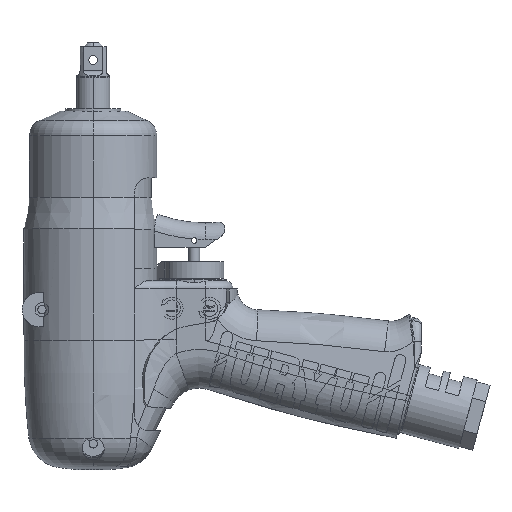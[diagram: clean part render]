
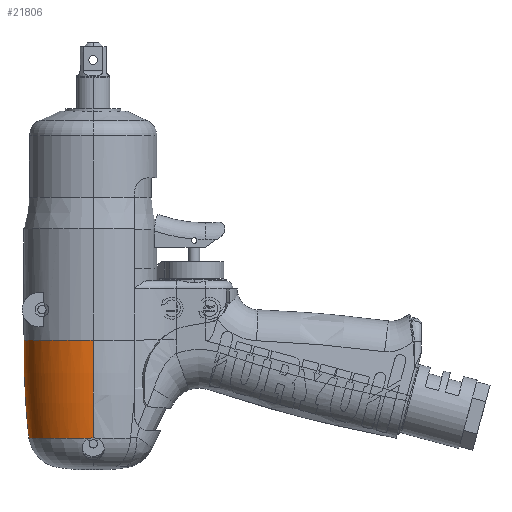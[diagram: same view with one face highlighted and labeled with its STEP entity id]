
A CAD part, left-side view. The second image highlights one B-rep face of the part: STEP entity #21806.
In plain terms, the highlighted toroidal (fillet/blend) face has major radius 276.989 mm and minor radius 302 mm.
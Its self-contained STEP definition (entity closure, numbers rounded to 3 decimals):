
#6689 = DIRECTION ( 'NONE',  ( -1., 0., 0. ) ) ;
#6690 = DIRECTION ( 'NONE',  ( 0., 1., 0. ) ) ;
#6701 = CARTESIAN_POINT ( 'NONE',  ( 276.989, 0., -103.801 ) ) ;
#6702 = AXIS2_PLACEMENT_3D ( 'NONE', #6701, #6690, #6689 ) ;
#6704 = CIRCLE ( 'NONE', #6702, 302. ) ;
#6742 = CARTESIAN_POINT ( 'NONE',  ( -23.24, 0., -136.466 ) ) ;
#6906 = CARTESIAN_POINT ( 'NONE',  ( -23.206, 0.975, -136.587 ) ) ;
#6907 = CARTESIAN_POINT ( 'NONE',  ( -23.217, 0.816, -136.547 ) ) ;
#6908 = CARTESIAN_POINT ( 'NONE',  ( -23.225, 0.655, -136.516 ) ) ;
#6909 = CARTESIAN_POINT ( 'NONE',  ( -23.237, 0.33, -136.476 ) ) ;
#6910 = CARTESIAN_POINT ( 'NONE',  ( -23.24, 0.164, -136.466 ) ) ;
#6911 = CARTESIAN_POINT ( 'NONE',  ( -23.24, 0., -136.466 ) ) ;
#6914 = B_SPLINE_CURVE_WITH_KNOTS ( 'NONE', 3,
 ( #6911, #6910, #6909, #6908, #6907, #6906 ),
 .UNSPECIFIED., .F., .F.,
 ( 4, 2, 4 ),
 ( 0.001, 0.002, 0.002 ),
 .UNSPECIFIED. ) ;
#7064 = DIRECTION ( 'NONE',  ( 1., 0., 0. ) ) ;
#7065 = DIRECTION ( 'NONE',  ( 0., 0., 1. ) ) ;
#7066 = CARTESIAN_POINT ( 'NONE',  ( 0., 0., -103.801 ) ) ;
#7067 = AXIS2_PLACEMENT_3D ( 'NONE', #7066, #7065, #7064 ) ;
#7073 = TOROIDAL_SURFACE ( 'NONE', #7067, -276.989, 302. ) ;
#7076 = FACE_OUTER_BOUND ( 'NONE', #20860, .T. ) ;
#7166 = CARTESIAN_POINT ( 'NONE',  ( 24.691, 0., -117.7 ) ) ;
#7211 = CARTESIAN_POINT ( 'NONE',  ( 24.071, 5.5, -117.7 ) ) ;
#7212 = B_SPLINE_CURVE_WITH_KNOTS ( 'NONE', 3,
 ( #7211, #7266, #7265, #7264, #7263, #7262, #7261, #7260, #7259, #7258 ),
 .UNSPECIFIED., .F., .F.,
 ( 4, 2, 2, 2, 4 ),
 ( 0., 0., 0.001, 0.001, 0.002 ),
 .UNSPECIFIED. ) ;
#7221 = CARTESIAN_POINT ( 'NONE',  ( 24.071, 5.5, -117.7 ) ) ;
#7222 = DIRECTION ( 'NONE',  ( 1., 0., 0. ) ) ;
#7223 = DIRECTION ( 'NONE',  ( 0., 0., 1. ) ) ;
#7224 = CARTESIAN_POINT ( 'NONE',  ( 0., 0., -117.7 ) ) ;
#7225 = AXIS2_PLACEMENT_3D ( 'NONE', #7224, #7223, #7222 ) ;
#7226 = CIRCLE ( 'NONE', #7225, 24.691 ) ;
#7231 = DIRECTION ( 'NONE',  ( 0., 0., -1. ) ) ;
#7232 = DIRECTION ( 'NONE',  ( 0., -1., 0. ) ) ;
#7233 = CARTESIAN_POINT ( 'NONE',  ( -276.989, 0., -103.801 ) ) ;
#7234 = AXIS2_PLACEMENT_3D ( 'NONE', #7233, #7232, #7231 ) ;
#7235 = CIRCLE ( 'NONE', #7234, 302. ) ;
#7236 = CARTESIAN_POINT ( 'NONE',  ( 23.24, 0., -136.466 ) ) ;
#7258 = CARTESIAN_POINT ( 'NONE',  ( 23.866, 6.5, -116.7 ) ) ;
#7259 = CARTESIAN_POINT ( 'NONE',  ( 23.86, 6.5, -116.834 ) ) ;
#7260 = CARTESIAN_POINT ( 'NONE',  ( 23.862, 6.473, -116.966 ) ) ;
#7261 = CARTESIAN_POINT ( 'NONE',  ( 23.878, 6.371, -117.209 ) ) ;
#7262 = CARTESIAN_POINT ( 'NONE',  ( 23.893, 6.295, -117.32 ) ) ;
#7263 = CARTESIAN_POINT ( 'NONE',  ( 23.933, 6.109, -117.504 ) ) ;
#7264 = CARTESIAN_POINT ( 'NONE',  ( 23.958, 5.999, -117.577 ) ) ;
#7265 = CARTESIAN_POINT ( 'NONE',  ( 24.012, 5.758, -117.675 ) ) ;
#7266 = CARTESIAN_POINT ( 'NONE',  ( 24.041, 5.63, -117.7 ) ) ;
#7311 = CARTESIAN_POINT ( 'NONE',  ( 23.866, 6.5, -116.7 ) ) ;
#7421 = CARTESIAN_POINT ( 'NONE',  ( 24.14, 6.5, -101.191 ) ) ;
#7422 = CARTESIAN_POINT ( 'NONE',  ( 24.163, 6.5, -103.78 ) ) ;
#7423 = CARTESIAN_POINT ( 'NONE',  ( 24.141, 6.5, -108.954 ) ) ;
#7424 = CARTESIAN_POINT ( 'NONE',  ( 23.981, 6.5, -114.12 ) ) ;
#7425 = CARTESIAN_POINT ( 'NONE',  ( 23.866, 6.5, -116.7 ) ) ;
#7428 = B_SPLINE_CURVE_WITH_KNOTS ( 'NONE', 3,
 ( #7425, #7424, #7423, #7422, #7421 ),
 .UNSPECIFIED., .F., .F.,
 ( 4, 1, 4 ),
 ( 0.418, 0.425, 0.433 ),
 .UNSPECIFIED. ) ;
#7661 = CARTESIAN_POINT ( 'NONE',  ( 23.24, 0., -136.466 ) ) ;
#7662 = CARTESIAN_POINT ( 'NONE',  ( 23.24, 0.33, -136.466 ) ) ;
#7663 = CARTESIAN_POINT ( 'NONE',  ( 23.228, 0.655, -136.506 ) ) ;
#7664 = CARTESIAN_POINT ( 'NONE',  ( 23.206, 0.975, -136.587 ) ) ;
#7666 = B_SPLINE_CURVE_WITH_KNOTS ( 'NONE', 3,
 ( #7664, #7663, #7662, #7661 ),
 .UNSPECIFIED., .F., .F.,
 ( 4, 4 ),
 ( 0., 0.001 ),
 .UNSPECIFIED. ) ;
#19378 = EDGE_CURVE ( 'NONE', #20019, #111447, #6704, .T. ) ;
#19797 = ORIENTED_EDGE ( 'NONE', *, *, #19378, .T. ) ;
#20019 = VERTEX_POINT ( 'NONE', #6742 ) ;
#20860 = EDGE_LOOP ( 'NONE', ( #20962, #19797, #25877, #25829, #22763, #22795, #22473, #27850, #27685 ) ) ;
#20933 = EDGE_CURVE ( 'NONE', #20019, #110465, #6914, .T. ) ;
#20962 = ORIENTED_EDGE ( 'NONE', *, *, #20933, .F. ) ;
#21806 = ADVANCED_FACE ( 'NONE', ( #7076 ), #7073, .T. ) ;
#22208 = VERTEX_POINT ( 'NONE', #7166 ) ;
#22473 = ORIENTED_EDGE ( 'NONE', *, *, #22632, .F. ) ;
#22600 = VERTEX_POINT ( 'NONE', #7236 ) ;
#22632 = EDGE_CURVE ( 'NONE', #22600, #22208, #7235, .T. ) ;
#22758 = EDGE_CURVE ( 'NONE', #22208, #22783, #7226, .T. ) ;
#22763 = ORIENTED_EDGE ( 'NONE', *, *, #22833, .F. ) ;
#22783 = VERTEX_POINT ( 'NONE', #7221 ) ;
#22795 = ORIENTED_EDGE ( 'NONE', *, *, #22758, .F. ) ;
#22833 = EDGE_CURVE ( 'NONE', #22783, #24289, #7212, .T. ) ;
#24289 = VERTEX_POINT ( 'NONE', #7311 ) ;
#25829 = ORIENTED_EDGE ( 'NONE', *, *, #25872, .F. ) ;
#25872 = EDGE_CURVE ( 'NONE', #24289, #111505, #7428, .T. ) ;
#25877 = ORIENTED_EDGE ( 'NONE', *, *, #111506, .F. ) ;
#27685 = ORIENTED_EDGE ( 'NONE', *, *, #110595, .T. ) ;
#27850 = ORIENTED_EDGE ( 'NONE', *, *, #27923, .F. ) ;
#27923 = EDGE_CURVE ( 'NONE', #110610, #22600, #7666, .T. ) ;
#88582 = CARTESIAN_POINT ( 'NONE',  ( -23.206, 0.975, -136.587 ) ) ;
#90393 = CARTESIAN_POINT ( 'NONE',  ( 23.206, 0.975, -136.587 ) ) ;
#90886 = DIRECTION ( 'NONE',  ( 1., 0., 0. ) ) ;
#90888 = DIRECTION ( 'NONE',  ( 0., 0., 1. ) ) ;
#90889 = CARTESIAN_POINT ( 'NONE',  ( 0., 0., -136.587 ) ) ;
#90890 = AXIS2_PLACEMENT_3D ( 'NONE', #90889, #90888, #90886 ) ;
#90891 = CIRCLE ( 'NONE', #90890, 23.226 ) ;
#94291 = CARTESIAN_POINT ( 'NONE',  ( -25., 0., -101.191 ) ) ;
#94477 = DIRECTION ( 'NONE',  ( 1., 0., 0. ) ) ;
#94478 = DIRECTION ( 'NONE',  ( 0., 0., 1. ) ) ;
#94479 = CARTESIAN_POINT ( 'NONE',  ( 0., 0., -101.191 ) ) ;
#94480 = AXIS2_PLACEMENT_3D ( 'NONE', #94479, #94478, #94477 ) ;
#94481 = CIRCLE ( 'NONE', #94480, 25. ) ;
#94486 = CARTESIAN_POINT ( 'NONE',  ( 24.14, 6.5, -101.191 ) ) ;
#110465 = VERTEX_POINT ( 'NONE', #88582 ) ;
#110595 = EDGE_CURVE ( 'NONE', #110610, #110465, #90891, .T. ) ;
#110610 = VERTEX_POINT ( 'NONE', #90393 ) ;
#111447 = VERTEX_POINT ( 'NONE', #94291 ) ;
#111505 = VERTEX_POINT ( 'NONE', #94486 ) ;
#111506 = EDGE_CURVE ( 'NONE', #111505, #111447, #94481, .T. ) ;
